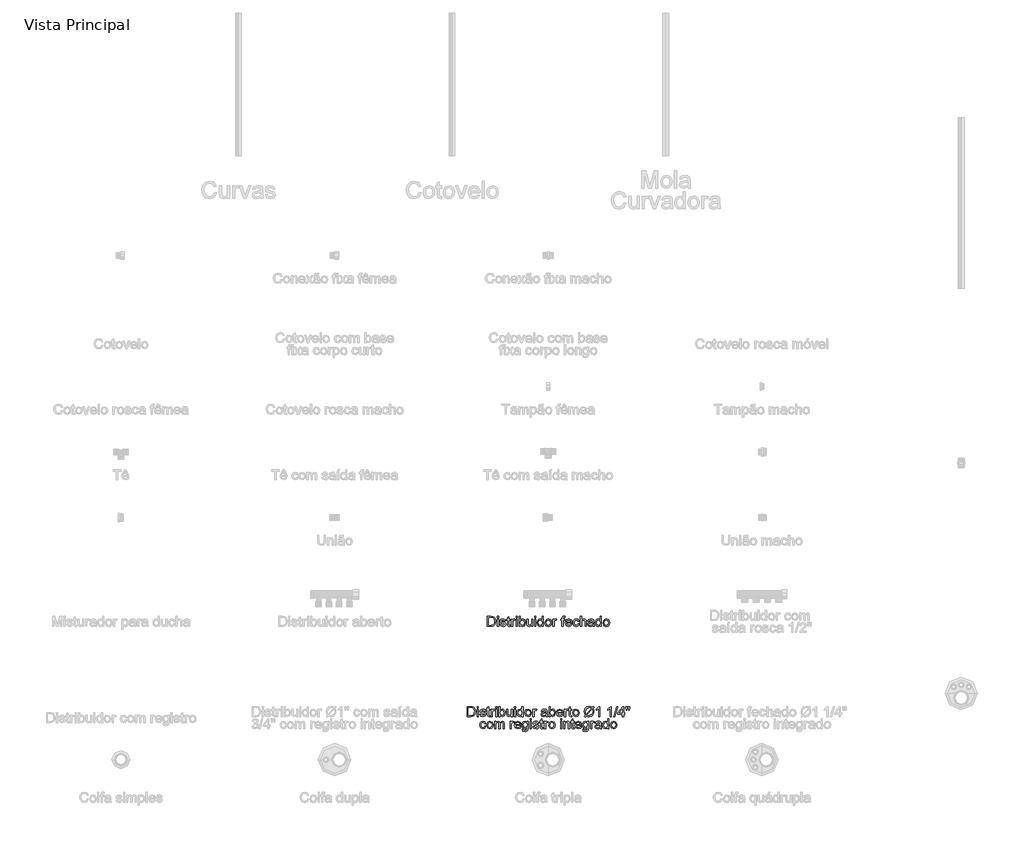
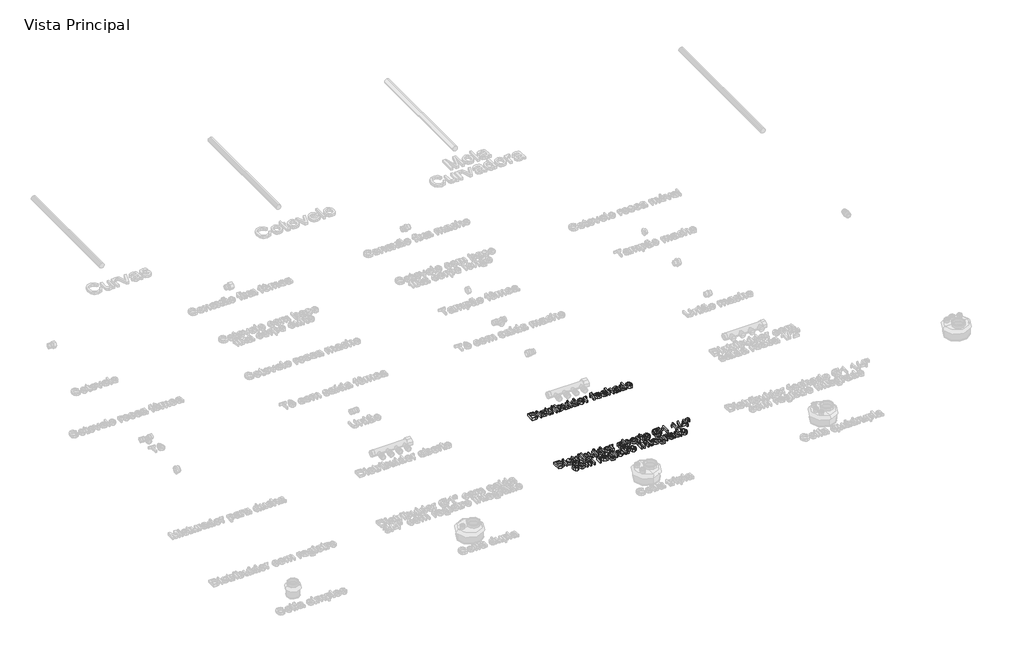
# One storey, part 7 of 12: 2 proxies.
"""IFC4 building model written with IfcOpenShell, lengths in millimetres."""

from ifc_helpers import new_model, si_unit, origin, origin_with_axes, place, context, project, spatial, polyline, outline, extrude, element, save

model = new_model("IFC4")

# Units and contexts
model_context = context("Model", 3, world=origin())
ifc_project = project(units=[si_unit("LENGTHUNIT", "METRE", prefix="MILLI")], contexts=[model_context])

# Site, building, storey
site = spatial("IfcSite", under=ifc_project)
building = spatial("IfcBuilding", under=site)
storey = spatial("IfcBuildingStorey", under=building, Name="Vista Principal", Elevation=0.0)

# Proxies
placement = place(None, origin())
element("IfcBuildingElementProxy", 1, Name="Legenda", ObjectType="Legenda", at=placement, inside=storey, context=model_context, shape_type="SweptSolid", body=[
    extrude(outline(polyline([(205.7066647, -1231.7668427), (205.7066647, -1196.6071341), (217.835734, -1196.6071341), (224.1105746, -1197.113585), (229.2780904, -1199.6286716), (233.4412883, -1205.6374108), (234.8232983, -1213.9981423), (233.8876518, -1221.0927466), (231.4841561, -1226.2130508), (228.2737725, -1229.4019746), (224.071947, -1231.1659688), (218.4194401, -1231.7668427), (205.7066647, -1231.7668427)]), holes=[polyline([(210.1016282, -1227.3718791), (217.8786536, -1227.3718791), (223.5354524, -1226.7366695), (226.7973394, -1224.9426317), (229.4712284, -1220.5777118), (230.4283347, -1213.929471), (228.5527497, -1205.6030752), (223.9903998, -1201.7059786), (217.7584788, -1201.0020977), (210.1016282, -1201.0020977), (210.1016282, -1227.3718791)])]), origin_with_axes(), (0.0, 0.0, 1.0), 10.0),
    extrude(outline(polyline([(240.3170028, -1231.7668427), (240.3170028, -1205.9464317), (244.7119663, -1205.9464317), (244.7119663, -1231.7668427), (240.3170028, -1231.7668427)])), origin_with_axes(), (0.0, 0.0, 1.0), 10.0),
    extrude(outline(polyline([(240.3170028, -1201.0020977), (240.3170028, -1196.6071341), (244.7119663, -1196.6071341), (244.7119663, -1201.0020977), (240.3170028, -1201.0020977)])), origin_with_axes(), (0.0, 0.0, 1.0), 10.0),
    extrude(outline(polyline([(249.6563004, -1224.0756564), (254.0512639, -1223.526286), (256.0856514, -1226.788173), (260.7467162, -1227.9212496), (265.2275189, -1226.8825961), (266.6867842, -1224.4447647), (265.218935, -1222.4704647), (260.6952128, -1221.2172133), (254.0770157, -1219.0669431), (251.1885289, -1216.5561485), (250.2056708, -1213.0109923), (250.9953908, -1209.7362294), (253.149953, -1207.2340187), (255.9440168, -1205.9335558), (259.7252306, -1205.3970613), (265.0730085, -1206.2597445), (268.4722381, -1208.5945689), (269.9830069, -1212.5388771), (265.5880433, -1213.0882475), (263.93564, -1210.663292), (260.0685871, -1209.7920248), (255.8624696, -1210.6246644), (254.6006344, -1212.5646288), (256.7637805, -1214.8136141), (260.5492862, -1215.7492606), (267.000097, -1217.8179837), (269.9958827, -1220.161392), (271.0817478, -1223.9812334), (269.8070366, -1228.1873509), (266.1288298, -1231.238932), (260.6866288, -1232.3162131), (253.0211943, -1230.2389061), (249.6563004, -1224.0756564)])), origin_with_axes(), (0.0, 0.0, 1.0), 10.0),
    extrude(outline(polyline([(285.3653794, -1228.1015117), (285.9147498, -1231.8956014), (282.627111, -1232.3162131), (278.9446123, -1231.5865805), (277.1076548, -1229.6723679), (276.5754522, -1224.6851143), (276.5754522, -1210.3413953), (273.2792295, -1210.3413953), (273.2792295, -1205.9464317), (276.5754522, -1205.9464317), (276.5754522, -1199.6715911), (280.9704158, -1197.0878333), (280.9704158, -1205.9464317), (285.3653794, -1205.9464317), (285.3653794, -1210.3413953), (280.9704158, -1210.3413953), (280.9704158, -1224.5563556), (281.2021814, -1226.8225087), (285.3653794, -1228.1015117)])), origin_with_axes(), (0.0, 0.0, 1.0), 10.0),
    extrude(outline(polyline([(289.7603429, -1231.7668427), (289.7603429, -1205.9464317), (293.605936, -1205.9464317), (293.605936, -1209.7662731), (296.3356204, -1206.2468687), (299.0824727, -1205.3970613), (303.4946041, -1206.7533196), (302.0267549, -1210.6933357), (298.9365462, -1209.7920248), (296.4515033, -1210.6590001), (294.8677713, -1213.0624958), (294.1553065, -1218.1956759), (294.1553065, -1231.7668427), (289.7603429, -1231.7668427)])), origin_with_axes(), (0.0, 0.0, 1.0), 10.0),
    extrude(outline(polyline([(306.2414563, -1231.7668427), (306.2414563, -1205.9464317), (310.6364199, -1205.9464317), (310.6364199, -1231.7668427), (306.2414563, -1231.7668427)])), origin_with_axes(), (0.0, 0.0, 1.0), 10.0),
    extrude(outline(polyline([(306.2414563, -1201.0020977), (306.2414563, -1196.6071341), (310.6364199, -1196.6071341), (310.6364199, -1201.0020977), (306.2414563, -1201.0020977)])), origin_with_axes(), (0.0, 0.0, 1.0), 10.0),
    extrude(outline(polyline([(321.6238288, -1231.7668427), (317.2288652, -1231.7668427), (317.2288652, -1196.6071341), (321.6238288, -1196.6071341), (321.6238288, -1209.6460983), (328.525295, -1205.3970613), (332.9288425, -1206.3541676), (336.34524, -1209.0452244), (338.4440068, -1213.2298821), (339.2036831, -1218.4703611), (336.0576789, -1228.7023857), (328.4995433, -1232.3162131), (321.6238288, -1227.6551482), (321.6238288, -1231.7668427)]), holes=[polyline([(321.6238288, -1218.676375), (322.8255766, -1224.8224569), (328.1218511, -1227.9212496), (332.8258355, -1225.6379286), (334.8087195, -1218.8308855), (332.9073827, -1211.9980905), (328.3106972, -1209.7920248), (323.6067127, -1212.0753458), (321.6238288, -1218.676375)])]), origin_with_axes(), (0.0, 0.0, 1.0), 10.0),
    extrude(outline(polyline([(360.6291305, -1231.7668427), (360.6291305, -1227.3289595), (352.6975947, -1232.3162131), (348.5644404, -1231.440654), (345.7145812, -1229.2431722), (344.4055345, -1226.0070369), (344.1480171, -1221.9210942), (344.1480171, -1205.9464317), (348.5429807, -1205.9464317), (348.5429807, -1219.8523711), (348.809082, -1224.3331738), (350.5473244, -1226.9641432), (353.8220873, -1227.9212496), (357.4917102, -1226.9426835), (359.9166657, -1224.2773784), (360.6291305, -1219.3802559), (360.6291305, -1205.9464317), (365.024094, -1205.9464317), (365.024094, -1231.7668427), (360.6291305, -1231.7668427)])), origin_with_axes(), (0.0, 0.0, 1.0), 10.0),
    extrude(outline(polyline([(371.0671689, -1201.0020977), (371.0671689, -1196.6071341), (375.4621325, -1196.6071341), (375.4621325, -1201.0020977), (371.0671689, -1201.0020977)])), origin_with_axes(), (0.0, 0.0, 1.0), 10.0),
    extrude(outline(polyline([(371.0671689, -1231.7668427), (371.0671689, -1205.9464317), (375.4621325, -1205.9464317), (375.4621325, -1231.7668427), (371.0671689, -1231.7668427)])), origin_with_axes(), (0.0, 0.0, 1.0), 10.0),
    extrude(outline(polyline([(397.9863208, -1231.7668427), (397.9863208, -1227.6208126), (391.0591028, -1232.3162131), (385.6169019, -1230.6165983), (381.7713087, -1225.8739863), (380.4064665, -1218.8823889), (381.6640098, -1211.8864997), (385.4323477, -1207.0709243), (391.041935, -1205.3970613), (395.0935421, -1206.5945172), (397.9863208, -1209.7061857), (397.9863208, -1196.6071341), (402.3812844, -1196.6071341), (402.3812844, -1231.7668427), (397.9863208, -1231.7668427)]), holes=[polyline([(384.8014301, -1218.8652211), (386.7843141, -1225.6679723), (391.4625468, -1227.9212496), (396.084984, -1225.7709793), (397.9863208, -1219.1999937), (396.0506484, -1212.0667618), (391.2822846, -1209.7920248), (386.6555554, -1211.9766308), (384.8014301, -1218.8652211)])]), origin_with_axes(), (0.0, 0.0, 1.0), 10.0),
    extrude(outline(polyline([(407.8749888, -1218.8566372), (411.6776624, -1208.2555044), (419.4203521, -1205.3970613), (427.7252882, -1208.8778381), (430.9485476, -1218.4961128), (429.523618, -1226.3160578), (425.3732959, -1230.7410651), (419.4203521, -1232.3162131), (411.0639126, -1228.8483122), (407.8749888, -1218.8566372)]), holes=[polyline([(412.2699524, -1218.8480533), (414.3043398, -1225.6593884), (419.4203521, -1227.9212496), (424.5191966, -1225.6465126), (426.553584, -1218.7107107), (424.5063207, -1212.053886), (419.4203521, -1209.7920248), (414.3043398, -1212.0453021), (412.2699524, -1218.8480533)])]), origin_with_axes(), (0.0, 0.0, 1.0), 10.0),
    extrude(outline(polyline([(435.8928816, -1231.7668427), (435.8928816, -1205.9464317), (439.7384747, -1205.9464317), (439.7384747, -1209.7662731), (442.4681591, -1206.2468687), (445.2150113, -1205.3970613), (449.6271427, -1206.7533196), (448.1592936, -1210.6933357), (445.0690848, -1209.7920248), (442.5840419, -1210.6590001), (441.00031, -1213.0624958), (440.2878452, -1218.1956759), (440.2878452, -1231.7668427), (435.8928816, -1231.7668427)])), origin_with_axes(), (0.0, 0.0, 1.0), 10.0),
    extrude(outline(polyline([(467.206997, -1231.7668427), (467.206997, -1210.3413953), (463.3614039, -1210.3413953), (463.3614039, -1205.9464317), (467.206997, -1205.9464317), (467.206997, -1203.345506), (467.6705283, -1199.6801751), (469.9195136, -1197.0620815), (474.3488128, -1196.0577637), (478.3575003, -1196.5384628), (477.7137068, -1200.6587412), (475.1814524, -1200.4527273), (472.4131404, -1201.1823599), (471.6019606, -1203.9034604), (471.6019606, -1205.9464317), (476.5462946, -1205.9464317), (476.5462946, -1210.3413953), (471.6019606, -1210.3413953), (471.6019606, -1231.7668427), (467.206997, -1231.7668427)])), origin_with_axes(), (0.0, 0.0, 1.0), 10.0),
    extrude(outline(polyline([(498.469609, -1224.0756564), (502.7787334, -1224.6250269), (498.7485861, -1230.2989935), (491.241954, -1232.3162131), (482.1172543, -1228.8354363), (478.7437764, -1219.071235), (482.1515899, -1208.985137), (490.9930206, -1205.3970613), (499.5812257, -1208.9765531), (502.916076, -1219.0454833), (483.13874, -1220.2300633), (485.6667024, -1225.9383656), (491.3277932, -1227.9212496), (495.6369176, -1227.0027708), (498.469609, -1224.0756564)]), holes=[polyline([(483.13874, -1215.8350997), (498.5211124, -1215.8350997), (496.7614102, -1211.852164), (490.9758527, -1209.7920248), (485.5636954, -1211.4358442), (483.13874, -1215.8350997)])]), origin_with_axes(), (0.0, 0.0, 1.0), 10.0),
    extrude(outline(polyline([(523.792153, -1222.4275451), (528.1871165, -1222.9769155), (524.6591282, -1229.8397542), (517.6889907, -1232.3162131), (509.3583029, -1228.8611881), (506.2122987, -1218.9510602), (507.5556811, -1211.650442), (511.6502077, -1206.9593335), (517.6289033, -1205.3970613), (524.3114797, -1207.5430396), (527.6377461, -1213.637618), (523.2427825, -1214.1869884), (521.2041031, -1210.8950577), (517.6632389, -1209.7920248), (512.5686864, -1211.9637549), (510.6072623, -1218.8308855), (512.5257669, -1225.7623954), (517.5430641, -1227.9212496), (521.6848023, -1226.5735752), (523.792153, -1222.4275451)])), origin_with_axes(), (0.0, 0.0, 1.0), 10.0),
    extrude(outline(polyline([(532.0327097, -1231.7668427), (532.0327097, -1196.6071341), (536.4276732, -1196.6071341), (536.4276732, -1209.5345074), (544.0759399, -1205.3970613), (549.01169, -1206.5258459), (552.0074757, -1209.6460983), (552.9087866, -1215.4230719), (552.9087866, -1231.7668427), (548.513823, -1231.7668427), (548.513823, -1215.8780193), (547.1146452, -1211.2427062), (543.1488773, -1209.7920248), (539.5479257, -1210.7705909), (537.14443, -1213.4230201), (536.4276732, -1218.0497494), (536.4276732, -1231.7668427), (532.0327097, -1231.7668427)])), origin_with_axes(), (0.0, 0.0, 1.0), 10.0),
    extrude(outline(polyline([(575.4329749, -1228.47062), (571.171062, -1231.4492379), (566.4627856, -1232.3162131), (560.0806461, -1230.2303222), (557.8531206, -1224.8997121), (558.6943441, -1221.4232273), (560.9047018, -1218.8995568), (563.9820347, -1217.4574593), (567.7847082, -1216.796498), (575.4072232, -1215.2857293), (574.2226431, -1211.062444), (569.3641483, -1209.7920248), (564.9176812, -1210.6375403), (562.7974546, -1213.637618), (558.4024911, -1213.0882475), (560.3038279, -1208.7962909), (564.1322532, -1206.2812043), (569.9306865, -1205.3970613), (575.2570047, -1206.1781974), (578.2656663, -1208.1396215), (579.6133406, -1211.1225314), (579.8279385, -1214.9681245), (579.8279385, -1220.4360772), (580.0511202, -1228.071468), (580.9266794, -1231.7668427), (576.5317158, -1231.7668427), (575.4329749, -1228.47062)]), holes=[polyline([(575.420099, -1220.3030266), (568.3426626, -1221.0283672), (564.5614488, -1221.740832), (562.8489581, -1222.8996603), (562.2480842, -1224.5906912), (563.557131, -1226.9684352), (567.3984321, -1227.9212496), (571.8448992, -1226.8697202), (574.7119262, -1224.3245899), (575.420099, -1220.3030266)])]), origin_with_axes(), (0.0, 0.0, 1.0), 10.0),
    extrude(outline(polyline([(601.8027563, -1231.7668427), (601.8027563, -1227.6208126), (594.8755384, -1232.3162131), (589.4333374, -1230.6165983), (585.5877442, -1225.8739863), (584.222902, -1218.8823889), (585.4804453, -1211.8864997), (589.2487832, -1207.0709243), (594.8583705, -1205.3970613), (598.9099776, -1206.5945172), (601.8027563, -1209.7061857), (601.8027563, -1196.6071341), (606.1977199, -1196.6071341), (606.1977199, -1231.7668427), (601.8027563, -1231.7668427)]), holes=[polyline([(588.6178656, -1218.8652211), (590.6007496, -1225.6679723), (595.2789823, -1227.9212496), (599.9014195, -1225.7709793), (601.8027563, -1219.1999937), (599.8670839, -1212.0667618), (595.0987201, -1209.7920248), (590.4719909, -1211.9766308), (588.6178656, -1218.8652211)])]), origin_with_axes(), (0.0, 0.0, 1.0), 10.0),
    extrude(outline(polyline([(611.6914244, -1218.8566372), (615.4940979, -1208.2555044), (623.2367876, -1205.3970613), (631.5417237, -1208.8778381), (634.7649831, -1218.4961128), (633.3400535, -1226.3160578), (629.1897315, -1230.7410651), (623.2367876, -1232.3162131), (614.8803481, -1228.8483122), (611.6914244, -1218.8566372)]), holes=[polyline([(616.0863879, -1218.8480533), (618.1207754, -1225.6593884), (623.2367876, -1227.9212496), (628.3356321, -1225.6465126), (630.3700195, -1218.7107107), (628.3227562, -1212.053886), (623.2367876, -1209.7920248), (618.1207754, -1212.0453021), (616.0863879, -1218.8480533)])]), origin_with_axes(), (0.0, 0.0, 1.0), 10.0),
])
element("IfcBuildingElementProxy", 2, Name="Legenda", ObjectType="Legenda", at=placement, inside=storey, context=model_context, shape_type="SweptSolid", body=[
    extrude(outline(polyline([(134.8378771, -1548.3212496), (134.8378771, -1513.161541), (146.9669465, -1513.161541), (153.2417871, -1513.6679919), (158.4093028, -1516.1830785), (162.5725007, -1522.1918177), (163.9545108, -1530.5525492), (163.0188642, -1537.6471535), (160.6153685, -1542.7674577), (157.404985, -1545.9563815), (153.2031594, -1547.7203756), (147.5506526, -1548.3212496), (134.8378771, -1548.3212496)]), holes=[polyline([(139.2328407, -1543.926286), (147.0098661, -1543.926286), (152.6666649, -1543.2910764), (155.9285519, -1541.4970385), (158.6024409, -1537.1321187), (159.5595472, -1530.4838779), (157.6839621, -1522.1574821), (153.1216123, -1518.2603855), (146.8896913, -1517.5565046), (139.2328407, -1517.5565046), (139.2328407, -1543.926286)])]), origin_with_axes(), (0.0, 0.0, 1.0), 10.0),
    extrude(outline(polyline([(169.4482152, -1548.3212496), (169.4482152, -1522.5008386), (173.8431788, -1522.5008386), (173.8431788, -1548.3212496), (169.4482152, -1548.3212496)])), origin_with_axes(), (0.0, 0.0, 1.0), 10.0),
    extrude(outline(polyline([(169.4482152, -1517.5565046), (169.4482152, -1513.161541), (173.8431788, -1513.161541), (173.8431788, -1517.5565046), (169.4482152, -1517.5565046)])), origin_with_axes(), (0.0, 0.0, 1.0), 10.0),
    extrude(outline(polyline([(178.7875128, -1540.6300633), (183.1824764, -1540.0806929), (185.2168638, -1543.3425799), (189.8779287, -1544.4756564), (194.3587314, -1543.4370029), (195.8179966, -1540.9991716), (194.3501475, -1539.0248715), (189.8264252, -1537.7716202), (183.2082281, -1535.6213499), (180.3197413, -1533.1105553), (179.3368832, -1529.5653992), (180.1266033, -1526.2906363), (182.2811655, -1523.7884256), (185.0752292, -1522.4879627), (188.856443, -1521.9514681), (194.2042209, -1522.8141514), (197.6034506, -1525.1489758), (199.1142193, -1529.0932839), (194.7192557, -1529.6426544), (193.0668524, -1527.2176989), (189.1997995, -1526.3464317), (184.9936821, -1527.1790713), (183.7318468, -1529.1190357), (185.8949929, -1531.3680209), (189.6804987, -1532.3036675), (196.1313095, -1534.3723906), (199.1270952, -1536.7157989), (200.2129602, -1540.5356403), (198.9382491, -1544.7417577), (195.2600423, -1547.7933389), (189.8178413, -1548.87062), (182.1524068, -1546.793313), (178.7875128, -1540.6300633)])), origin_with_axes(), (0.0, 0.0, 1.0), 10.0),
    extrude(outline(polyline([(214.4965918, -1544.6559186), (215.0459622, -1548.4500083), (211.7583235, -1548.87062), (208.0758247, -1548.1409874), (206.2388673, -1546.2267747), (205.7066647, -1541.2395212), (205.7066647, -1526.8958022), (202.410442, -1526.8958022), (202.410442, -1522.5008386), (205.7066647, -1522.5008386), (205.7066647, -1516.225998), (210.1016282, -1513.6422401), (210.1016282, -1522.5008386), (214.4965918, -1522.5008386), (214.4965918, -1526.8958022), (210.1016282, -1526.8958022), (210.1016282, -1541.1107625), (210.3333939, -1543.3769155), (214.4965918, -1544.6559186)])), origin_with_axes(), (0.0, 0.0, 1.0), 10.0),
    extrude(outline(polyline([(218.8915554, -1548.3212496), (218.8915554, -1522.5008386), (222.7371485, -1522.5008386), (222.7371485, -1526.32068), (225.4668329, -1522.8012756), (228.2136851, -1521.9514681), (232.6258165, -1523.3077264), (231.1579674, -1527.2477426), (228.0677586, -1526.3464317), (225.5827157, -1527.2134069), (223.9989837, -1529.6169027), (223.2865189, -1534.7500828), (223.2865189, -1548.3212496), (218.8915554, -1548.3212496)])), origin_with_axes(), (0.0, 0.0, 1.0), 10.0),
    extrude(outline(polyline([(235.3726688, -1548.3212496), (235.3726688, -1522.5008386), (239.7676323, -1522.5008386), (239.7676323, -1548.3212496), (235.3726688, -1548.3212496)])), origin_with_axes(), (0.0, 0.0, 1.0), 10.0),
    extrude(outline(polyline([(235.3726688, -1517.5565046), (235.3726688, -1513.161541), (239.7676323, -1513.161541), (239.7676323, -1517.5565046), (235.3726688, -1517.5565046)])), origin_with_axes(), (0.0, 0.0, 1.0), 10.0),
    extrude(outline(polyline([(250.7550412, -1548.3212496), (246.3600777, -1548.3212496), (246.3600777, -1513.161541), (250.7550412, -1513.161541), (250.7550412, -1526.2005052), (257.6565075, -1521.9514681), (262.060055, -1522.9085745), (265.4764524, -1525.5996313), (267.5752192, -1529.784289), (268.3348955, -1535.024768), (265.1888913, -1545.2567925), (257.6307557, -1548.87062), (250.7550412, -1544.2095551), (250.7550412, -1548.3212496)]), holes=[polyline([(250.7550412, -1535.2307819), (251.9567891, -1541.3768638), (257.2530636, -1544.4756564), (261.957048, -1542.1923355), (263.939932, -1535.3852923), (262.0385952, -1528.5524974), (257.4419096, -1526.3464317), (252.7379252, -1528.6297526), (250.7550412, -1535.2307819)])]), origin_with_axes(), (0.0, 0.0, 1.0), 10.0),
    extrude(outline(polyline([(289.7603429, -1548.3212496), (289.7603429, -1543.8833664), (281.8288071, -1548.87062), (277.6956529, -1547.9950609), (274.8457937, -1545.7975791), (273.5367469, -1542.5614438), (273.2792295, -1538.4755011), (273.2792295, -1522.5008386), (277.6741931, -1522.5008386), (277.6741931, -1536.406778), (277.9402944, -1540.8875807), (279.6785368, -1543.5185501), (282.9532997, -1544.4756564), (286.6229226, -1543.4970903), (289.0478781, -1540.8317853), (289.7603429, -1535.9346628), (289.7603429, -1522.5008386), (294.1553065, -1522.5008386), (294.1553065, -1548.3212496), (289.7603429, -1548.3212496)])), origin_with_axes(), (0.0, 0.0, 1.0), 10.0),
    extrude(outline(polyline([(300.1983814, -1517.5565046), (300.1983814, -1513.161541), (304.593345, -1513.161541), (304.593345, -1517.5565046), (300.1983814, -1517.5565046)])), origin_with_axes(), (0.0, 0.0, 1.0), 10.0),
    extrude(outline(polyline([(300.1983814, -1548.3212496), (300.1983814, -1522.5008386), (304.593345, -1522.5008386), (304.593345, -1548.3212496), (300.1983814, -1548.3212496)])), origin_with_axes(), (0.0, 0.0, 1.0), 10.0),
    extrude(outline(polyline([(327.1175333, -1548.3212496), (327.1175333, -1544.1752195), (320.1903153, -1548.87062), (314.7481143, -1547.1710052), (310.9025212, -1542.4283931), (309.537679, -1535.4367958), (310.7952223, -1528.4409065), (314.5635602, -1523.6253312), (320.1731475, -1521.9514681), (324.2247545, -1523.148924), (327.1175333, -1526.2605926), (327.1175333, -1513.161541), (331.5124968, -1513.161541), (331.5124968, -1548.3212496), (327.1175333, -1548.3212496)]), holes=[polyline([(313.9326425, -1535.419628), (315.9155265, -1542.2223792), (320.5937592, -1544.4756564), (325.2161965, -1542.3253862), (327.1175333, -1535.7544006), (325.1818608, -1528.6211687), (320.413497, -1526.3464317), (315.7867678, -1528.5310376), (313.9326425, -1535.419628)])]), origin_with_axes(), (0.0, 0.0, 1.0), 10.0),
    extrude(outline(polyline([(337.0062013, -1535.4110441), (340.8088748, -1524.8099112), (348.5515646, -1521.9514681), (356.8565006, -1525.432245), (360.07976, -1535.0505197), (358.6548304, -1542.8704647), (354.5045084, -1547.2954719), (348.5515646, -1548.87062), (340.195125, -1545.4027191), (337.0062013, -1535.4110441)]), holes=[polyline([(341.4011649, -1535.4024602), (343.4355523, -1542.2137953), (348.5515646, -1544.4756564), (353.650409, -1542.2009194), (355.6847965, -1535.2651176), (353.6375332, -1528.6082928), (348.5515646, -1526.3464317), (343.4355523, -1528.5997089), (341.4011649, -1535.4024602)])]), origin_with_axes(), (0.0, 0.0, 1.0), 10.0),
    extrude(outline(polyline([(365.024094, -1548.3212496), (365.024094, -1522.5008386), (368.8696872, -1522.5008386), (368.8696872, -1526.32068), (371.5993716, -1522.8012756), (374.3462238, -1521.9514681), (378.7583552, -1523.3077264), (377.290506, -1527.2477426), (374.2002973, -1526.3464317), (371.7152544, -1527.2134069), (370.1315224, -1529.6169027), (369.4190576, -1534.7500828), (369.4190576, -1548.3212496), (365.024094, -1548.3212496)])), origin_with_axes(), (0.0, 0.0, 1.0), 10.0),
    extrude(outline(polyline([(411.720582, -1545.0250269), (407.458669, -1548.0036448), (402.7503926, -1548.87062), (396.3682532, -1546.7847291), (394.1407277, -1541.454119), (394.9819512, -1537.9776341), (397.1923088, -1535.4539636), (400.2696417, -1534.0118662), (404.0723153, -1533.3509049), (411.6948302, -1531.8401362), (410.5102502, -1527.6168509), (405.6517553, -1526.3464317), (401.2052883, -1527.1919472), (399.0850617, -1530.1920248), (394.6900981, -1529.6426544), (396.5914349, -1525.3506978), (400.4198602, -1522.8356112), (406.2182936, -1521.9514681), (411.5446117, -1522.7326042), (414.5532733, -1524.6940284), (415.9009477, -1527.6769383), (416.1155455, -1531.5225314), (416.1155455, -1536.9904841), (416.3387273, -1544.6258749), (417.2142864, -1548.3212496), (412.8193229, -1548.3212496), (411.720582, -1545.0250269)]), holes=[polyline([(411.7077061, -1536.8574335), (404.6302696, -1537.5827741), (400.8490559, -1538.2952389), (399.1365652, -1539.4540672), (398.5356913, -1541.1450981), (399.844738, -1543.5228421), (403.6860392, -1544.4756564), (408.1325062, -1543.4241271), (410.9995332, -1540.8789968), (411.7077061, -1536.8574335)])]), origin_with_axes(), (0.0, 0.0, 1.0), 10.0),
    extrude(outline(polyline([(426.553584, -1548.3212496), (422.1586204, -1548.3212496), (422.1586204, -1513.161541), (426.553584, -1513.161541), (426.553584, -1526.2005052), (433.4550502, -1521.9514681), (437.8585977, -1522.9085745), (441.2749952, -1525.5996313), (443.373762, -1529.784289), (444.1334383, -1535.024768), (440.9874341, -1545.2567925), (433.4292985, -1548.87062), (426.553584, -1544.2095551), (426.553584, -1548.3212496)]), holes=[polyline([(426.553584, -1535.2307819), (427.7553319, -1541.3768638), (433.0516063, -1544.4756564), (437.7555908, -1542.1923355), (439.7384747, -1535.3852923), (437.8371379, -1528.5524974), (433.2404524, -1526.3464317), (428.536468, -1528.6297526), (426.553584, -1535.2307819)])]), origin_with_axes(), (0.0, 0.0, 1.0), 10.0),
    extrude(outline(polyline([(467.1554935, -1540.6300633), (471.464618, -1541.1794338), (467.4344707, -1546.8534004), (459.9278386, -1548.87062), (450.8031389, -1545.3898432), (447.429661, -1535.6256419), (450.8374745, -1525.5395439), (459.6789051, -1521.9514681), (468.2671103, -1525.53096), (471.6019606, -1535.5998902), (451.8246245, -1536.7844702), (454.352587, -1542.4927725), (460.0136777, -1544.4756564), (464.3228022, -1543.5571777), (467.1554935, -1540.6300633)]), holes=[polyline([(451.8246245, -1532.3895066), (467.206997, -1532.3895066), (465.4472948, -1528.4065709), (459.6617373, -1526.3464317), (454.24958, -1527.9902511), (451.8246245, -1532.3895066)])]), origin_with_axes(), (0.0, 0.0, 1.0), 10.0),
    extrude(outline(polyline([(475.9969242, -1548.3212496), (475.9969242, -1522.5008386), (479.8425173, -1522.5008386), (479.8425173, -1526.32068), (482.5722017, -1522.8012756), (485.3190539, -1521.9514681), (489.7311853, -1523.3077264), (488.2633362, -1527.2477426), (485.1731274, -1526.3464317), (482.6880845, -1527.2134069), (481.1043525, -1529.6169027), (480.3918877, -1534.7500828), (480.3918877, -1548.3212496), (475.9969242, -1548.3212496)])), origin_with_axes(), (0.0, 0.0, 1.0), 10.0),
    extrude(outline(polyline([(501.8173351, -1544.6559186), (502.3667056, -1548.4500083), (499.0790668, -1548.87062), (495.396568, -1548.1409874), (493.5596106, -1546.2267747), (493.027408, -1541.2395212), (493.027408, -1526.8958022), (489.7311853, -1526.8958022), (489.7311853, -1522.5008386), (493.027408, -1522.5008386), (493.027408, -1516.225998), (497.4223716, -1513.6422401), (497.4223716, -1522.5008386), (501.8173351, -1522.5008386), (501.8173351, -1526.8958022), (497.4223716, -1526.8958022), (497.4223716, -1541.1107625), (497.6541372, -1543.3769155), (501.8173351, -1544.6559186)])), origin_with_axes(), (0.0, 0.0, 1.0), 10.0),
    extrude(outline(polyline([(505.1135578, -1535.4110441), (508.9162314, -1524.8099112), (516.6589211, -1521.9514681), (524.9638571, -1525.432245), (528.1871165, -1535.0505197), (526.7621869, -1542.8704647), (522.6118649, -1547.2954719), (516.6589211, -1548.87062), (508.3024816, -1545.4027191), (505.1135578, -1535.4110441)]), holes=[polyline([(509.5085214, -1535.4024602), (511.5429088, -1542.2137953), (516.6589211, -1544.4756564), (521.7577655, -1542.2009194), (523.792153, -1535.2651176), (521.7448897, -1528.6082928), (516.6589211, -1526.3464317), (511.5429088, -1528.5997089), (509.5085214, -1535.4024602)])]), origin_with_axes(), (0.0, 0.0, 1.0), 10.0),
    extrude(outline(polyline([(573.2612449, -1516.3805085), (577.0810862, -1512.8782719), (580.2485502, -1514.8869076), (576.2999501, -1519.393462), (578.5145998, -1524.6210652), (579.278568, -1531.2049266), (577.1840932, -1540.565684), (571.3041126, -1546.7718532), (563.252402, -1548.87062), (557.5011802, -1548.1667391), (552.874451, -1546.0808482), (548.9344348, -1550.5788187), (545.7669708, -1547.7203756), (549.8271618, -1543.0936464), (546.5824426, -1536.9819002), (545.7669708, -1530.8873218), (547.9086572, -1521.2218355), (553.9173964, -1514.7967765), (562.5227694, -1512.6121706), (568.106605, -1513.4533941), (573.2612449, -1516.3805085)]), holes=[polyline([(570.3856339, -1519.6509794), (566.7074271, -1517.6337598), (562.6257764, -1517.0071341), (553.6899227, -1520.4535753), (550.1619344, -1530.7413953), (550.7027209, -1535.5226349), (552.7886118, -1539.7287524), (570.3856339, -1519.6509794)]), polyline([(573.2955805, -1522.8098595), (555.7586458, -1542.8103773), (557.9561276, -1543.7116882), (562.4970177, -1544.4756564), (571.3813679, -1540.9047485), (574.8836045, -1530.8787379), (573.2955805, -1522.8098595)])]), origin_with_axes(), (0.0, 0.0, 1.0), 10.0),
    extrude(outline(polyline([(600.154645, -1548.3212496), (595.7596814, -1548.3212496), (595.7596814, -1520.9213986), (591.5964835, -1523.8871406), (586.9697543, -1526.1060821), (586.9697543, -1521.9514681), (593.4119811, -1517.8397737), (597.3219536, -1513.161541), (600.154645, -1513.161541), (600.154645, -1548.3212496)])), origin_with_axes(), (0.0, 0.0, 1.0), 10.0),
    extrude(outline(polyline([(640.808058, -1548.3212496), (636.4130944, -1548.3212496), (636.4130944, -1520.9213986), (632.2498965, -1523.8871406), (627.6231673, -1526.1060821), (627.6231673, -1521.9514681), (634.0653942, -1517.8397737), (637.9753666, -1513.161541), (640.808058, -1513.161541), (640.808058, -1548.3212496)])), origin_with_axes(), (0.0, 0.0, 1.0), 10.0),
    extrude(outline(polyline([(649.0486147, -1548.3212496), (658.9372827, -1513.161541), (662.9030506, -1513.161541), (653.0143826, -1548.3212496), (649.0486147, -1548.3212496)])), origin_with_axes(), (0.0, 0.0, 1.0), 10.0),
    extrude(outline(polyline([(679.2639892, -1548.3212496), (679.2639892, -1540.0806929), (663.3322463, -1540.0806929), (663.3322463, -1535.6857293), (680.3627301, -1513.7109115), (683.6589528, -1513.7109115), (683.6589528, -1535.6857293), (688.0539164, -1535.6857293), (688.0539164, -1540.0806929), (683.6589528, -1540.0806929), (683.6589528, -1548.3212496), (679.2639892, -1548.3212496)]), holes=[polyline([(679.2639892, -1535.6857293), (679.2639892, -1522.1059786), (668.7401116, -1535.6857293), (679.2639892, -1535.6857293)])]), origin_with_axes(), (0.0, 0.0, 1.0), 10.0),
    extrude(outline(polyline([(701.736674, -1525.7970613), (700.6894366, -1519.0071859), (700.6894366, -1513.161541), (705.0844002, -1513.161541), (705.0844002, -1519.0071859), (704.0543306, -1525.7970613), (701.736674, -1525.7970613)])), origin_with_axes(), (0.0, 0.0, 1.0), 10.0),
    extrude(outline(polyline([(692.9724986, -1525.7970613), (691.8995095, -1519.0071859), (691.8995095, -1513.161541), (696.2944731, -1513.161541), (696.2944731, -1519.0071859), (695.3330748, -1525.7970613), (692.9724986, -1525.7970613)])), origin_with_axes(), (0.0, 0.0, 1.0), 10.0),
    extrude(outline(polyline([(196.0926819, -1581.6731382), (200.4876454, -1582.2225087), (196.9596571, -1589.0853473), (189.9895196, -1591.5618063), (181.6588318, -1588.1067812), (178.5128276, -1578.1966534), (179.85621, -1570.8960352), (183.9507366, -1566.2049266), (189.9294322, -1564.6426544), (196.6120086, -1566.7886327), (199.938275, -1572.8832111), (195.5433114, -1573.4325815), (193.504632, -1570.1406508), (189.9637678, -1569.037618), (184.8692153, -1571.209348), (182.9077911, -1578.0764786), (184.8262958, -1585.0079885), (189.843593, -1587.1668427), (193.9853312, -1585.8191683), (196.0926819, -1581.6731382)])), origin_with_axes(), (0.0, 0.0, 1.0), 10.0),
    extrude(outline(polyline([(203.2344977, -1578.1022303), (207.0371712, -1567.5010975), (214.7798609, -1564.6426544), (223.084797, -1568.1234312), (226.3080564, -1577.741706), (224.8831268, -1585.5616509), (220.7328048, -1589.9866582), (214.7798609, -1591.5618063), (206.4234214, -1588.0939053), (203.2344977, -1578.1022303)]), holes=[polyline([(207.6294612, -1578.0936464), (209.6638487, -1584.9049815), (214.7798609, -1587.1668427), (219.8787054, -1584.8921057), (221.9130928, -1577.9563038), (219.8658295, -1571.2994791), (214.7798609, -1569.037618), (209.6638487, -1571.2908952), (207.6294612, -1578.0936464)])]), origin_with_axes(), (0.0, 0.0, 1.0), 10.0),
    extrude(outline(polyline([(231.2523904, -1591.0124358), (231.2523904, -1565.1920248), (235.647354, -1565.1920248), (235.647354, -1569.4410619), (238.6688914, -1565.9602851), (242.969432, -1564.6426544), (247.3729794, -1565.9860368), (249.793643, -1569.7500828), (257.5535005, -1564.6426544), (263.3004304, -1566.7671729), (265.3133581, -1573.3124067), (265.3133581, -1591.0124358), (260.9183945, -1591.0124358), (260.9183945, -1575.2008677), (260.5106586, -1571.5312448), (259.0342255, -1569.724331), (256.5234309, -1569.037618), (252.2014306, -1570.7973202), (250.480356, -1576.4369512), (250.480356, -1591.0124358), (246.0853925, -1591.0124358), (246.0853925, -1574.7115846), (245.0681987, -1570.4539636), (241.7333484, -1569.037618), (238.4800453, -1569.9818484), (236.3168992, -1572.7458685), (235.647354, -1577.9906394), (235.647354, -1591.0124358), (231.2523904, -1591.0124358)])), origin_with_axes(), (0.0, 0.0, 1.0), 10.0),
    extrude(outline(polyline([(285.6400646, -1591.0124358), (285.6400646, -1565.1920248), (289.4856577, -1565.1920248), (289.4856577, -1569.0118662), (292.2153421, -1565.4924618), (294.9621943, -1564.6426544), (299.3743257, -1565.9989127), (297.9064766, -1569.9389288), (294.8162678, -1569.037618), (292.3312249, -1569.9045932), (290.7474929, -1572.3080889), (290.0350281, -1577.441269), (290.0350281, -1591.0124358), (285.6400646, -1591.0124358)])), origin_with_axes(), (0.0, 0.0, 1.0), 10.0),
    extrude(outline(polyline([(320.1988992, -1583.3212496), (324.5080236, -1583.87062), (320.4778764, -1589.5445866), (312.9712443, -1591.5618063), (303.8465445, -1588.0810294), (300.4730666, -1578.3168282), (303.8808802, -1568.2307301), (312.7223108, -1564.6426544), (321.310516, -1568.2221462), (324.6453662, -1578.2910764), (304.8680302, -1579.4756564), (307.3959926, -1585.1839587), (313.0570834, -1587.1668427), (317.3662078, -1586.248364), (320.1988992, -1583.3212496)]), holes=[polyline([(304.8680302, -1575.0806929), (320.2504027, -1575.0806929), (318.4907005, -1571.0977571), (312.705143, -1569.037618), (307.2929857, -1570.6814373), (304.8680302, -1575.0806929)])]), origin_with_axes(), (0.0, 0.0, 1.0), 10.0),
    extrude(outline(polyline([(327.9415889, -1593.2099176), (332.3365525, -1593.759288), (333.7614821, -1596.0769446), (338.027687, -1597.0555107), (342.5256575, -1595.9481859), (344.6716358, -1592.8408093), (344.9720728, -1587.7162131), (338.1049422, -1591.0124358), (330.1948661, -1587.1754266), (327.3922185, -1577.9734716), (328.6497618, -1571.1621365), (332.289341, -1566.3422692), (337.8903443, -1564.6426544), (344.9720728, -1568.4882475), (344.9720728, -1565.1920248), (349.3670363, -1565.1920248), (349.3670363, -1587.4844475), (348.1652885, -1596.0211492), (344.358323, -1599.991209), (337.9418478, -1601.4504743), (330.6326457, -1599.3946271), (327.9415889, -1593.2099176)]), holes=[polyline([(331.787182, -1577.6730347), (333.6627671, -1584.4757859), (338.3710435, -1586.6174722), (343.070736, -1584.4886618), (344.9720728, -1577.8017934), (343.0149405, -1571.2479756), (338.3023722, -1569.037618), (333.6885188, -1571.21364), (331.787182, -1577.6730347)])]), origin_with_axes(), (0.0, 0.0, 1.0), 10.0),
    extrude(outline(polyline([(355.9594817, -1560.2476908), (355.9594817, -1555.8527273), (360.3544452, -1555.8527273), (360.3544452, -1560.2476908), (355.9594817, -1560.2476908)])), origin_with_axes(), (0.0, 0.0, 1.0), 10.0),
    extrude(outline(polyline([(355.9594817, -1591.0124358), (355.9594817, -1565.1920248), (360.3544452, -1565.1920248), (360.3544452, -1591.0124358), (355.9594817, -1591.0124358)])), origin_with_axes(), (0.0, 0.0, 1.0), 10.0),
    extrude(outline(polyline([(365.2987793, -1583.3212496), (369.6937428, -1582.7718791), (371.7281303, -1586.0337661), (376.3891951, -1587.1668427), (380.8699978, -1586.1281892), (382.3292631, -1583.6903578), (380.8614139, -1581.7160578), (376.3376917, -1580.4628065), (369.7194946, -1578.3125362), (366.8310078, -1575.8017416), (365.8481497, -1572.2565854), (366.6378697, -1568.9818225), (368.7924319, -1566.4796118), (371.5864957, -1565.179149), (375.3677095, -1564.6426544), (380.7154874, -1565.5053377), (384.114717, -1567.8401621), (385.6254858, -1571.7844702), (381.2305222, -1572.3338406), (379.5781189, -1569.9088852), (375.711066, -1569.037618), (371.5049485, -1569.8702575), (370.2431133, -1571.8102219), (372.4062594, -1574.0592072), (376.1917651, -1574.9948537), (382.6425759, -1577.0635768), (385.6383616, -1579.4069851), (386.7242267, -1583.2268265), (385.4495155, -1587.432944), (381.7713087, -1590.4845251), (376.3291078, -1591.5618063), (368.6636732, -1589.4844993), (365.2987793, -1583.3212496)])), origin_with_axes(), (0.0, 0.0, 1.0), 10.0),
    extrude(outline(polyline([(401.0078583, -1587.3471049), (401.5572287, -1591.1411945), (398.2695899, -1591.5618063), (394.5870912, -1590.8321736), (392.7501337, -1588.917961), (392.2179311, -1583.9307074), (392.2179311, -1569.5869884), (388.9217084, -1569.5869884), (388.9217084, -1565.1920248), (392.2179311, -1565.1920248), (392.2179311, -1558.9171843), (396.6128947, -1556.3334264), (396.6128947, -1565.1920248), (401.0078583, -1565.1920248), (401.0078583, -1569.5869884), (396.6128947, -1569.5869884), (396.6128947, -1583.8019487), (396.8446603, -1586.0681018), (401.0078583, -1587.3471049)])), origin_with_axes(), (0.0, 0.0, 1.0), 10.0),
    extrude(outline(polyline([(405.4028218, -1591.0124358), (405.4028218, -1565.1920248), (409.248415, -1565.1920248), (409.248415, -1569.0118662), (411.9780994, -1565.4924618), (414.7249516, -1564.6426544), (419.137083, -1565.9989127), (417.6692338, -1569.9389288), (414.5790251, -1569.037618), (412.0939822, -1569.9045932), (410.5102502, -1572.3080889), (409.7977854, -1577.441269), (409.7977854, -1591.0124358), (405.4028218, -1591.0124358)])), origin_with_axes(), (0.0, 0.0, 1.0), 10.0),
    extrude(outline(polyline([(420.7851943, -1578.1022303), (424.5878679, -1567.5010975), (432.3305576, -1564.6426544), (440.6354936, -1568.1234312), (443.8587531, -1577.741706), (442.4338235, -1585.5616509), (438.2835014, -1589.9866582), (432.3305576, -1591.5618063), (423.9741181, -1588.0939053), (420.7851943, -1578.1022303)]), holes=[polyline([(425.1801579, -1578.0936464), (427.2145453, -1584.9049815), (432.3305576, -1587.1668427), (437.4294021, -1584.8921057), (439.4637895, -1577.9563038), (437.4165262, -1571.2994791), (432.3305576, -1569.037618), (427.2145453, -1571.2908952), (425.1801579, -1578.0936464)])]), origin_with_axes(), (0.0, 0.0, 1.0), 10.0),
    extrude(outline(polyline([(462.5373482, -1560.2476908), (462.5373482, -1555.8527273), (466.9323118, -1555.8527273), (466.9323118, -1560.2476908), (462.5373482, -1560.2476908)])), origin_with_axes(), (0.0, 0.0, 1.0), 10.0),
    extrude(outline(polyline([(462.5373482, -1591.0124358), (462.5373482, -1565.1920248), (466.9323118, -1565.1920248), (466.9323118, -1591.0124358), (462.5373482, -1591.0124358)])), origin_with_axes(), (0.0, 0.0, 1.0), 10.0),
    extrude(outline(polyline([(473.5247572, -1591.0124358), (473.5247572, -1565.1920248), (477.9197207, -1565.1920248), (477.9197207, -1568.7972684), (485.8684244, -1564.6426544), (490.0187464, -1565.4795859), (492.8514378, -1567.6770677), (494.1690684, -1570.908911), (494.4008341, -1575.1579481), (494.4008341, -1591.0124358), (490.0058705, -1591.0124358), (490.0058705, -1575.7502381), (489.4994197, -1571.8617254), (487.7096737, -1569.8058782), (484.6924283, -1569.037618), (479.9240645, -1570.7629845), (477.9197207, -1577.3125103), (477.9197207, -1591.0124358), (473.5247572, -1591.0124358)])), origin_with_axes(), (0.0, 0.0, 1.0), 10.0),
    extrude(outline(polyline([(509.7832066, -1587.3471049), (510.332577, -1591.1411945), (507.0449383, -1591.5618063), (503.3624395, -1590.8321736), (501.5254821, -1588.917961), (500.9932795, -1583.9307074), (500.9932795, -1569.5869884), (497.6970568, -1569.5869884), (497.6970568, -1565.1920248), (500.9932795, -1565.1920248), (500.9932795, -1558.9171843), (505.388243, -1556.3334264), (505.388243, -1565.1920248), (509.7832066, -1565.1920248), (509.7832066, -1569.5869884), (505.388243, -1569.5869884), (505.388243, -1583.8019487), (505.6200087, -1586.0681018), (509.7832066, -1587.3471049)])), origin_with_axes(), (0.0, 0.0, 1.0), 10.0),
    extrude(outline(polyline([(532.2558914, -1583.3212496), (536.5650158, -1583.87062), (532.5348686, -1589.5445866), (525.0282365, -1591.5618063), (515.9035367, -1588.0810294), (512.5300588, -1578.3168282), (515.9378724, -1568.2307301), (524.779303, -1564.6426544), (533.3675082, -1568.2221462), (536.7023585, -1578.2910764), (516.9250224, -1579.4756564), (519.4529848, -1585.1839587), (525.1140756, -1587.1668427), (529.4232, -1586.248364), (532.2558914, -1583.3212496)]), holes=[polyline([(516.9250224, -1575.0806929), (532.3073949, -1575.0806929), (530.5476927, -1571.0977571), (524.7621352, -1569.037618), (519.3499779, -1570.6814373), (516.9250224, -1575.0806929)])]), origin_with_axes(), (0.0, 0.0, 1.0), 10.0),
    extrude(outline(polyline([(539.9985811, -1593.2099176), (544.3935447, -1593.759288), (545.8184743, -1596.0769446), (550.0846792, -1597.0555107), (554.5826497, -1595.9481859), (556.728628, -1592.8408093), (557.029065, -1587.7162131), (550.1619344, -1591.0124358), (542.2518584, -1587.1754266), (539.4492107, -1577.9734716), (540.706754, -1571.1621365), (544.3463332, -1566.3422692), (549.9473366, -1564.6426544), (557.029065, -1568.4882475), (557.029065, -1565.1920248), (561.4240285, -1565.1920248), (561.4240285, -1587.4844475), (560.2222807, -1596.0211492), (556.4153152, -1599.991209), (549.99884, -1601.4504743), (542.6896379, -1599.3946271), (539.9985811, -1593.2099176)]), holes=[polyline([(543.8441743, -1577.6730347), (545.7197593, -1584.4757859), (550.4280357, -1586.6174722), (555.1277282, -1584.4886618), (557.029065, -1577.8017934), (555.0719327, -1571.2479756), (550.3593644, -1569.037618), (545.745511, -1571.21364), (543.8441743, -1577.6730347)])]), origin_with_axes(), (0.0, 0.0, 1.0), 10.0),
    extrude(outline(polyline([(568.0164739, -1591.0124358), (568.0164739, -1565.1920248), (571.862067, -1565.1920248), (571.862067, -1569.0118662), (574.5917514, -1565.4924618), (577.3386036, -1564.6426544), (581.750735, -1565.9989127), (580.2828859, -1569.9389288), (577.1926771, -1569.037618), (574.7076342, -1569.9045932), (573.1239023, -1572.3080889), (572.4114375, -1577.441269), (572.4114375, -1591.0124358), (568.0164739, -1591.0124358)])), origin_with_axes(), (0.0, 0.0, 1.0), 10.0),
    extrude(outline(polyline([(600.9787007, -1587.7162131), (596.7167877, -1590.694831), (592.0085113, -1591.5618063), (585.6263719, -1589.4759153), (583.3988464, -1584.1453052), (584.2400699, -1580.6688204), (586.4504275, -1578.1451499), (589.5277604, -1576.7030525), (593.330434, -1576.0420911), (600.9529489, -1574.5313224), (599.7683689, -1570.3080371), (594.909874, -1569.037618), (590.463407, -1569.8831334), (588.3431804, -1572.8832111), (583.9482168, -1572.3338406), (585.8495536, -1568.041884), (589.6779789, -1565.5267975), (595.4764123, -1564.6426544), (600.8027304, -1565.4237905), (603.811392, -1567.3852147), (605.1590664, -1570.3681245), (605.3736642, -1574.2137176), (605.3736642, -1579.6816704), (605.596846, -1587.3170612), (606.4724051, -1591.0124358), (602.0774415, -1591.0124358), (600.9787007, -1587.7162131)]), holes=[polyline([(600.9658248, -1579.5486197), (593.8883883, -1580.2739604), (590.1071746, -1580.9864252), (588.3946839, -1582.1452534), (587.7938099, -1583.8362844), (589.1028567, -1586.2140283), (592.9441579, -1587.1668427), (597.3906249, -1586.1153133), (600.2576519, -1583.570183), (600.9658248, -1579.5486197)])]), origin_with_axes(), (0.0, 0.0, 1.0), 10.0),
    extrude(outline(polyline([(627.3484821, -1591.0124358), (627.3484821, -1586.8664057), (620.4212641, -1591.5618063), (614.9790631, -1589.8621914), (611.13347, -1585.1195794), (609.7686278, -1578.1279821), (611.0261711, -1571.1320928), (614.794509, -1566.3165175), (620.4040963, -1564.6426544), (624.4557033, -1565.8401103), (627.3484821, -1568.9517788), (627.3484821, -1555.8527273), (631.7434456, -1555.8527273), (631.7434456, -1591.0124358), (627.3484821, -1591.0124358)]), holes=[polyline([(614.1635914, -1578.1108142), (616.1464753, -1584.9135655), (620.824708, -1587.1668427), (625.4471453, -1585.0165724), (627.3484821, -1578.4455868), (625.4128096, -1571.312355), (620.6444458, -1569.037618), (616.0177166, -1571.2222239), (614.1635914, -1578.1108142)])]), origin_with_axes(), (0.0, 0.0, 1.0), 10.0),
    extrude(outline(polyline([(637.2371501, -1578.1022303), (641.0398237, -1567.5010975), (648.7825134, -1564.6426544), (657.0874494, -1568.1234312), (660.3107088, -1577.741706), (658.8857792, -1585.5616509), (654.7354572, -1589.9866582), (648.7825134, -1591.5618063), (640.4260739, -1588.0939053), (637.2371501, -1578.1022303)]), holes=[polyline([(641.6321137, -1578.0936464), (643.6665011, -1584.9049815), (648.7825134, -1587.1668427), (653.8813578, -1584.8921057), (655.9157453, -1577.9563038), (653.868482, -1571.2994791), (648.7825134, -1569.037618), (643.6665011, -1571.2908952), (641.6321137, -1578.0936464)])]), origin_with_axes(), (0.0, 0.0, 1.0), 10.0),
])

save(model, "model.ifc")
